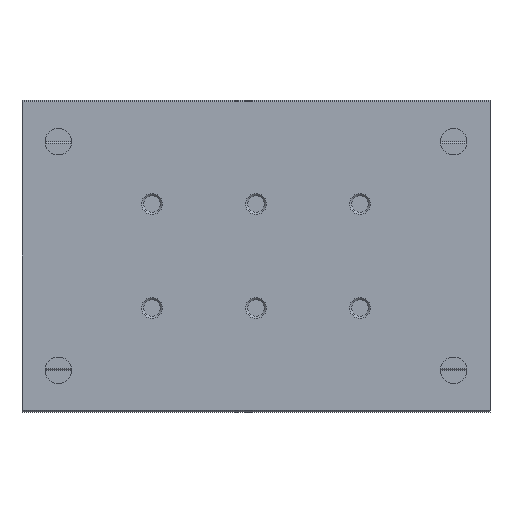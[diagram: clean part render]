
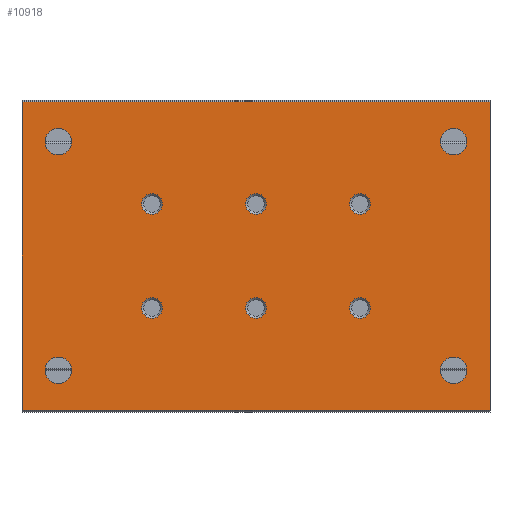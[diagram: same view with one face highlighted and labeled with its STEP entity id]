
A CAD part, front view. The second image highlights one B-rep face of the part: STEP entity #10918.
In plain terms, the highlighted planar face has unit normal (0, -1, 0).
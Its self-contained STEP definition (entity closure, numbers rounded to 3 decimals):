
#366=CIRCLE('',#11572,1.);
#367=CIRCLE('',#11573,1.);
#368=CIRCLE('',#11574,1.);
#369=CIRCLE('',#11575,1.);
#370=CIRCLE('',#11576,1.);
#371=CIRCLE('',#11577,1.);
#372=CIRCLE('',#11578,1.275);
#373=CIRCLE('',#11579,1.275);
#374=CIRCLE('',#11580,1.275);
#375=CIRCLE('',#11581,1.275);
#1098=ORIENTED_EDGE('',*,*,#4419,.F.);
#1099=ORIENTED_EDGE('',*,*,#4420,.F.);
#1100=ORIENTED_EDGE('',*,*,#4421,.F.);
#1101=ORIENTED_EDGE('',*,*,#4422,.F.);
#1102=ORIENTED_EDGE('',*,*,#4423,.F.);
#1103=ORIENTED_EDGE('',*,*,#4424,.F.);
#1104=ORIENTED_EDGE('',*,*,#4425,.T.);
#1105=ORIENTED_EDGE('',*,*,#4426,.F.);
#1106=ORIENTED_EDGE('',*,*,#4427,.F.);
#1107=ORIENTED_EDGE('',*,*,#4428,.F.);
#1108=ORIENTED_EDGE('',*,*,#4393,.T.);
#1109=ORIENTED_EDGE('',*,*,#4429,.F.);
#1110=ORIENTED_EDGE('',*,*,#4430,.F.);
#1111=ORIENTED_EDGE('',*,*,#4417,.T.);
#4393=EDGE_CURVE('',#6056,#6055,#7179,.T.);
#4417=EDGE_CURVE('',#6078,#6056,#7203,.T.);
#4419=EDGE_CURVE('',#6079,#6079,#366,.T.);
#4420=EDGE_CURVE('',#6080,#6080,#367,.T.);
#4421=EDGE_CURVE('',#6081,#6081,#368,.T.);
#4422=EDGE_CURVE('',#6082,#6082,#369,.T.);
#4423=EDGE_CURVE('',#6083,#6083,#370,.T.);
#4424=EDGE_CURVE('',#6084,#6084,#371,.T.);
#4425=EDGE_CURVE('',#6085,#6085,#372,.T.);
#4426=EDGE_CURVE('',#6086,#6086,#373,.T.);
#4427=EDGE_CURVE('',#6087,#6087,#374,.T.);
#4428=EDGE_CURVE('',#6088,#6088,#375,.T.);
#4429=EDGE_CURVE('',#6089,#6055,#7205,.T.);
#4430=EDGE_CURVE('',#6078,#6089,#7206,.T.);
#6055=VERTEX_POINT('',#16526);
#6056=VERTEX_POINT('',#16528);
#6078=VERTEX_POINT('',#16577);
#6079=VERTEX_POINT('',#16581);
#6080=VERTEX_POINT('',#16583);
#6081=VERTEX_POINT('',#16585);
#6082=VERTEX_POINT('',#16587);
#6083=VERTEX_POINT('',#16589);
#6084=VERTEX_POINT('',#16591);
#6085=VERTEX_POINT('',#16593);
#6086=VERTEX_POINT('',#16595);
#6087=VERTEX_POINT('',#16597);
#6088=VERTEX_POINT('',#16599);
#6089=VERTEX_POINT('',#16601);
#7179=LINE('',#16527,#8193);
#7203=LINE('',#16576,#8217);
#7205=LINE('',#16600,#8219);
#7206=LINE('',#16602,#8220);
#8193=VECTOR('',#12910,1000.);
#8217=VECTOR('',#12940,1000.);
#8219=VECTOR('',#12964,1000.);
#8220=VECTOR('',#12965,1000.);
#9163=EDGE_LOOP('',(#1098));
#9164=EDGE_LOOP('',(#1099));
#9165=EDGE_LOOP('',(#1100));
#9166=EDGE_LOOP('',(#1101));
#9167=EDGE_LOOP('',(#1102));
#9168=EDGE_LOOP('',(#1103));
#9169=EDGE_LOOP('',(#1104));
#9170=EDGE_LOOP('',(#1105));
#9171=EDGE_LOOP('',(#1106));
#9172=EDGE_LOOP('',(#1107));
#9173=EDGE_LOOP('',(#1108,#1109,#1110,#1111));
#9895=FACE_BOUND('',#9163,.T.);
#9896=FACE_BOUND('',#9164,.T.);
#9897=FACE_BOUND('',#9165,.T.);
#9898=FACE_BOUND('',#9166,.T.);
#9899=FACE_BOUND('',#9167,.T.);
#9900=FACE_BOUND('',#9168,.T.);
#9901=FACE_BOUND('',#9169,.T.);
#9902=FACE_BOUND('',#9170,.T.);
#9903=FACE_BOUND('',#9171,.T.);
#9904=FACE_BOUND('',#9172,.T.);
#9905=FACE_BOUND('',#9173,.T.);
#10627=PLANE('',#11571);
#10918=ADVANCED_FACE('',(#9895,#9896,#9897,#9898,#9899,#9900,#9901,#9902,
#9903,#9904,#9905),#10627,.F.);
#11571=AXIS2_PLACEMENT_3D('',#16579,#12942,#12943);
#11572=AXIS2_PLACEMENT_3D('',#16580,#12944,#12945);
#11573=AXIS2_PLACEMENT_3D('',#16582,#12946,#12947);
#11574=AXIS2_PLACEMENT_3D('',#16584,#12948,#12949);
#11575=AXIS2_PLACEMENT_3D('',#16586,#12950,#12951);
#11576=AXIS2_PLACEMENT_3D('',#16588,#12952,#12953);
#11577=AXIS2_PLACEMENT_3D('',#16590,#12954,#12955);
#11578=AXIS2_PLACEMENT_3D('',#16592,#12956,#12957);
#11579=AXIS2_PLACEMENT_3D('',#16594,#12958,#12959);
#11580=AXIS2_PLACEMENT_3D('',#16596,#12960,#12961);
#11581=AXIS2_PLACEMENT_3D('',#16598,#12962,#12963);
#12910=DIRECTION('',(0.,0.,-1.));
#12940=DIRECTION('',(-1.,0.,0.));
#12942=DIRECTION('',(0.,1.,0.));
#12943=DIRECTION('',(0.,0.,1.));
#12944=DIRECTION('',(0.,-1.,0.));
#12945=DIRECTION('',(0.,0.,-1.));
#12946=DIRECTION('',(0.,-1.,0.));
#12947=DIRECTION('',(0.,0.,-1.));
#12948=DIRECTION('',(0.,-1.,0.));
#12949=DIRECTION('',(0.,0.,-1.));
#12950=DIRECTION('',(0.,-1.,0.));
#12951=DIRECTION('',(0.,0.,-1.));
#12952=DIRECTION('',(0.,-1.,0.));
#12953=DIRECTION('',(0.,0.,-1.));
#12954=DIRECTION('',(0.,-1.,0.));
#12955=DIRECTION('',(0.,0.,-1.));
#12956=DIRECTION('',(0.,1.,0.));
#12957=DIRECTION('',(0.,0.,1.));
#12958=DIRECTION('',(0.,-1.,0.));
#12959=DIRECTION('',(0.,0.,-1.));
#12960=DIRECTION('',(0.,-1.,0.));
#12961=DIRECTION('',(0.,0.,-1.));
#12962=DIRECTION('',(0.,-1.,0.));
#12963=DIRECTION('',(0.,0.,-1.));
#12964=DIRECTION('',(-1.,0.,0.));
#12965=DIRECTION('',(0.,0.,-1.));
#16526=CARTESIAN_POINT('',(0.,0.,-14.85));
#16527=CARTESIAN_POINT('',(0.,0.,14.85));
#16528=CARTESIAN_POINT('',(0.,0.,14.85));
#16576=CARTESIAN_POINT('',(45.,0.,14.85));
#16577=CARTESIAN_POINT('',(45.,0.,14.85));
#16579=CARTESIAN_POINT('',(45.,0.,14.85));
#16580=CARTESIAN_POINT('',(32.5,0.,-5.));
#16581=CARTESIAN_POINT('',(32.5,0.,-6.));
#16582=CARTESIAN_POINT('',(32.5,0.,5.));
#16583=CARTESIAN_POINT('',(32.5,0.,4.));
#16584=CARTESIAN_POINT('',(12.5,0.,-5.));
#16585=CARTESIAN_POINT('',(12.5,0.,-6.));
#16586=CARTESIAN_POINT('',(12.5,0.,5.));
#16587=CARTESIAN_POINT('',(12.5,0.,4.));
#16588=CARTESIAN_POINT('',(22.5,0.,-5.));
#16589=CARTESIAN_POINT('',(22.5,0.,-6.));
#16590=CARTESIAN_POINT('',(22.5,0.,5.));
#16591=CARTESIAN_POINT('',(22.5,0.,4.));
#16592=CARTESIAN_POINT('',(41.5,0.,11.));
#16593=CARTESIAN_POINT('',(41.5,0.,12.275));
#16594=CARTESIAN_POINT('',(41.5,0.,-11.));
#16595=CARTESIAN_POINT('',(41.5,0.,-12.275));
#16596=CARTESIAN_POINT('',(3.5,0.,-11.));
#16597=CARTESIAN_POINT('',(3.5,0.,-12.275));
#16598=CARTESIAN_POINT('',(3.5,0.,11.));
#16599=CARTESIAN_POINT('',(3.5,0.,9.725));
#16600=CARTESIAN_POINT('',(45.,0.,-14.85));
#16601=CARTESIAN_POINT('',(45.,0.,-14.85));
#16602=CARTESIAN_POINT('',(45.,0.,14.85));
